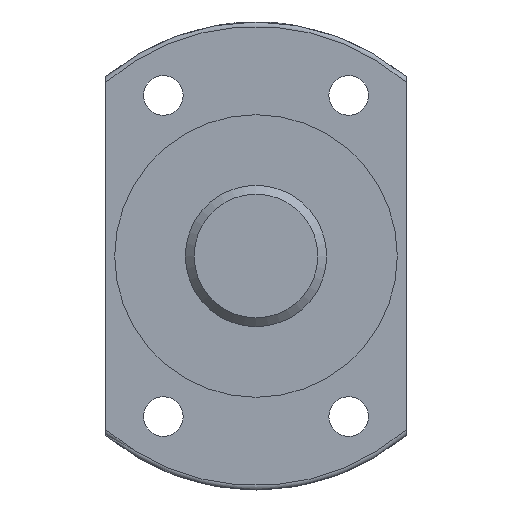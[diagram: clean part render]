
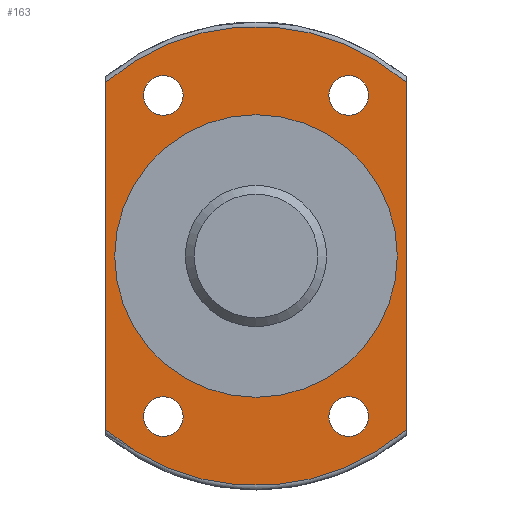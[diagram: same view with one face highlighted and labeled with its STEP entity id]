
A CAD part, left-side view. The second image highlights one B-rep face of the part: STEP entity #163.
In plain terms, the highlighted planar face has unit normal (-1, 0, 0).
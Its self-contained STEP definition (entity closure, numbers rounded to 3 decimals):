
#82 = DIRECTION ( 'NONE',  ( -1., 0., 0. ) ) ;
#96 = CARTESIAN_POINT ( 'NONE',  ( -34.9, -17., 0. ) ) ;
#117 = ORIENTED_EDGE ( 'NONE', *, *, #1587, .T. ) ;
#122 = CARTESIAN_POINT ( 'NONE',  ( -34.9, -10.5, -18.19 ) ) ;
#153 = FACE_BOUND ( 'NONE', #2090, .T. ) ;
#159 = DIRECTION ( 'NONE',  ( 1., 0., 0. ) ) ;
#163 = ADVANCED_FACE ( 'NONE', ( #2639, #1760, #2656, #153, #2670, #1972 ), #1507, .F. ) ;
#211 = AXIS2_PLACEMENT_3D ( 'NONE', #1323, #622, #2228 ) ;
#228 = CARTESIAN_POINT ( 'NONE',  ( -34.9, 10.5, -20.44 ) ) ;
#348 = EDGE_CURVE ( 'NONE', #1583, #1583, #368, .T. ) ;
#352 = DIRECTION ( 'NONE',  ( 0., 0., -1. ) ) ;
#353 = VECTOR ( 'NONE', #352, 1000. ) ;
#368 = CIRCLE ( 'NONE', #699, 2.25 ) ;
#405 = CIRCLE ( 'NONE', #1975, 16. ) ;
#504 = CARTESIAN_POINT ( 'NONE',  ( -34.9, 17., -19.672 ) ) ;
#552 = CARTESIAN_POINT ( 'NONE',  ( -34.9, -17., -19.672 ) ) ;
#606 = AXIS2_PLACEMENT_3D ( 'NONE', #122, #159, #2451 ) ;
#622 = DIRECTION ( 'NONE',  ( -1., 0., 0. ) ) ;
#630 = AXIS2_PLACEMENT_3D ( 'NONE', #2421, #1526, #830 ) ;
#655 = CARTESIAN_POINT ( 'NONE',  ( -34.9, -17., 19.672 ) ) ;
#662 = VERTEX_POINT ( 'NONE', #1556 ) ;
#699 = AXIS2_PLACEMENT_3D ( 'NONE', #877, #2948, #1357 ) ;
#743 = CIRCLE ( 'NONE', #606, 2.25 ) ;
#757 = EDGE_CURVE ( 'NONE', #1806, #1806, #743, .T. ) ;
#779 = CIRCLE ( 'NONE', #211, 26. ) ;
#804 = EDGE_CURVE ( 'NONE', #662, #662, #2573, .T. ) ;
#824 = ORIENTED_EDGE ( 'NONE', *, *, #757, .T. ) ;
#825 = DIRECTION ( 'NONE',  ( 1., 0., 0. ) ) ;
#830 = DIRECTION ( 'NONE',  ( 0., 0., 1. ) ) ;
#844 = EDGE_CURVE ( 'NONE', #2761, #1925, #1529, .T. ) ;
#877 = CARTESIAN_POINT ( 'NONE',  ( -34.9, 10.5, -18.19 ) ) ;
#912 = VERTEX_POINT ( 'NONE', #1821 ) ;
#969 = ORIENTED_EDGE ( 'NONE', *, *, #844, .T. ) ;
#1152 = EDGE_LOOP ( 'NONE', ( #117, #1727, #969, #1879 ) ) ;
#1163 = VECTOR ( 'NONE', #1236, 1000. ) ;
#1236 = DIRECTION ( 'NONE',  ( 0., 0., -1. ) ) ;
#1261 = DIRECTION ( 'NONE',  ( 1., 0., 0. ) ) ;
#1323 = CARTESIAN_POINT ( 'NONE',  ( -34.9, 0., 0. ) ) ;
#1354 = AXIS2_PLACEMENT_3D ( 'NONE', #1356, #2261, #2499 ) ;
#1356 = CARTESIAN_POINT ( 'NONE',  ( -34.9, -10.5, 18.19 ) ) ;
#1357 = DIRECTION ( 'NONE',  ( 0., 0., -1. ) ) ;
#1394 = EDGE_LOOP ( 'NONE', ( #2544 ) ) ;
#1444 = EDGE_LOOP ( 'NONE', ( #2686 ) ) ;
#1507 = PLANE ( 'NONE',  #2267 ) ;
#1526 = DIRECTION ( 'NONE',  ( -1., 0., 0. ) ) ;
#1529 = CIRCLE ( 'NONE', #630, 26. ) ;
#1556 = CARTESIAN_POINT ( 'NONE',  ( -34.9, 10.5, 15.94 ) ) ;
#1583 = VERTEX_POINT ( 'NONE', #228 ) ;
#1587 = EDGE_CURVE ( 'NONE', #2296, #2700, #779, .T. ) ;
#1619 = CARTESIAN_POINT ( 'NONE',  ( -34.9, 17., 19.672 ) ) ;
#1678 = DIRECTION ( 'NONE',  ( 0., 0., -1. ) ) ;
#1721 = CARTESIAN_POINT ( 'NONE',  ( -34.9, 17., 0. ) ) ;
#1727 = ORIENTED_EDGE ( 'NONE', *, *, #2909, .T. ) ;
#1730 = DIRECTION ( 'NONE',  ( 0., 1., 0. ) ) ;
#1760 = FACE_BOUND ( 'NONE', #2224, .T. ) ;
#1806 = VERTEX_POINT ( 'NONE', #2464 ) ;
#1821 = CARTESIAN_POINT ( 'NONE',  ( -34.9, -10.5, 15.94 ) ) ;
#1879 = ORIENTED_EDGE ( 'NONE', *, *, #2506, .F. ) ;
#1881 = EDGE_LOOP ( 'NONE', ( #2604 ) ) ;
#1925 = VERTEX_POINT ( 'NONE', #552 ) ;
#1950 = LINE ( 'NONE', #1721, #353 ) ;
#1958 = CARTESIAN_POINT ( 'NONE',  ( -34.9, 26., 0. ) ) ;
#1972 = FACE_BOUND ( 'NONE', #1444, .T. ) ;
#1975 = AXIS2_PLACEMENT_3D ( 'NONE', #2785, #82, #1678 ) ;
#2090 = EDGE_LOOP ( 'NONE', ( #2117 ) ) ;
#2117 = ORIENTED_EDGE ( 'NONE', *, *, #804, .T. ) ;
#2128 = LINE ( 'NONE', #96, #1163 ) ;
#2199 = DIRECTION ( 'NONE',  ( 0., 0., -1. ) ) ;
#2224 = EDGE_LOOP ( 'NONE', ( #824 ) ) ;
#2228 = DIRECTION ( 'NONE',  ( 0., 0., 1. ) ) ;
#2261 = DIRECTION ( 'NONE',  ( 1., 0., 0. ) ) ;
#2267 = AXIS2_PLACEMENT_3D ( 'NONE', #1958, #825, #1730 ) ;
#2291 = EDGE_CURVE ( 'NONE', #912, #912, #2586, .T. ) ;
#2296 = VERTEX_POINT ( 'NONE', #655 ) ;
#2421 = CARTESIAN_POINT ( 'NONE',  ( -34.9, 0., 0. ) ) ;
#2451 = DIRECTION ( 'NONE',  ( 0., 0., -1. ) ) ;
#2464 = CARTESIAN_POINT ( 'NONE',  ( -34.9, -10.5, -20.44 ) ) ;
#2492 = VERTEX_POINT ( 'NONE', #2702 ) ;
#2499 = DIRECTION ( 'NONE',  ( 0., 0., -1. ) ) ;
#2506 = EDGE_CURVE ( 'NONE', #2296, #1925, #2128, .T. ) ;
#2544 = ORIENTED_EDGE ( 'NONE', *, *, #348, .T. ) ;
#2573 = CIRCLE ( 'NONE', #2814, 2.25 ) ;
#2586 = CIRCLE ( 'NONE', #1354, 2.25 ) ;
#2604 = ORIENTED_EDGE ( 'NONE', *, *, #2291, .T. ) ;
#2639 = FACE_BOUND ( 'NONE', #1394, .T. ) ;
#2652 = EDGE_CURVE ( 'NONE', #2492, #2492, #405, .T. ) ;
#2656 = FACE_BOUND ( 'NONE', #1881, .T. ) ;
#2670 = FACE_OUTER_BOUND ( 'NONE', #1152, .T. ) ;
#2686 = ORIENTED_EDGE ( 'NONE', *, *, #2652, .F. ) ;
#2700 = VERTEX_POINT ( 'NONE', #1619 ) ;
#2702 = CARTESIAN_POINT ( 'NONE',  ( -34.9, 0., -16. ) ) ;
#2761 = VERTEX_POINT ( 'NONE', #504 ) ;
#2785 = CARTESIAN_POINT ( 'NONE',  ( -34.9, 0., 0. ) ) ;
#2814 = AXIS2_PLACEMENT_3D ( 'NONE', #2872, #1261, #2199 ) ;
#2872 = CARTESIAN_POINT ( 'NONE',  ( -34.9, 10.5, 18.19 ) ) ;
#2909 = EDGE_CURVE ( 'NONE', #2700, #2761, #1950, .T. ) ;
#2948 = DIRECTION ( 'NONE',  ( 1., 0., 0. ) ) ;
